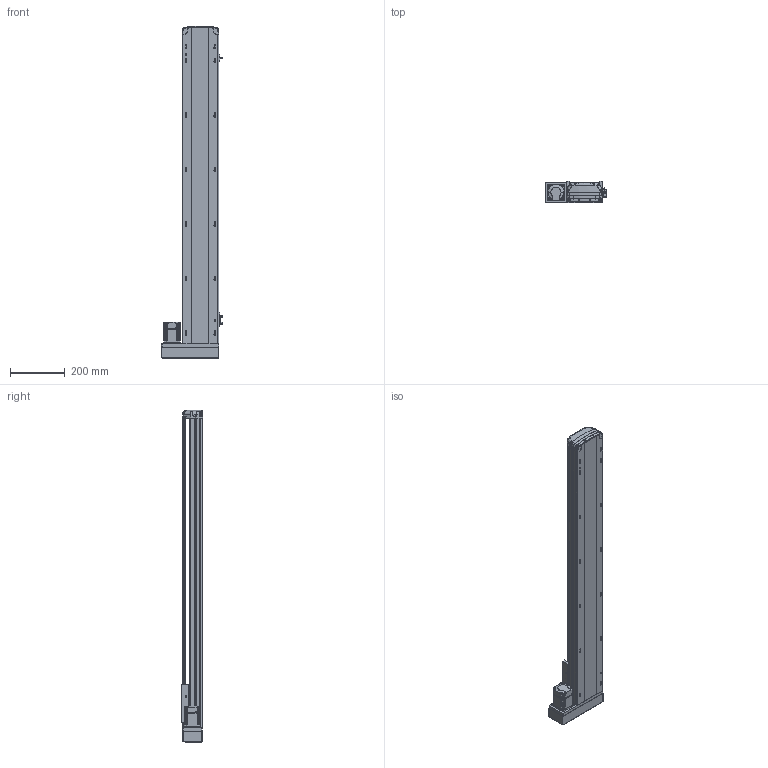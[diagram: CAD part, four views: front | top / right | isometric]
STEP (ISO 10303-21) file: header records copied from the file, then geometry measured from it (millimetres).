
FILE_DESCRIPTION (( 'STEP AP214' ), '1' );
FILE_NAME ('RTH14-XX-950-L-M20-C4.STEP', '2025-10-25T02:41:02', ( 'Microsoft' ), ( 'Microsoft' ), 'SwSTEP 2.0', 'SolidWorks 2018', '' );
FILE_SCHEMA (( 'AUTOMOTIVE_DESIGN' ));
Length unit declared in the file: millimetre
Products named in the file (10): RTH14-XX-950-L-M20-C4; N_RTH13-L-012感应片（外置）^RTH14-XX-XX-L-M20-C4; N_RTH14-M-007P奻裔^RTH14-XX-XX-L-M20-C4; N_RTH14-M-011P菁釱^RTH14-XX-XX-L-M20-C4; N_RTH13-L-018 裔赽^RTH14-XX-XX-L-M20-C4; N_RTH14-R-004-SFSR16賑釱^RTH14-XX-XX-L-M20-C4; N_RTH13-L-008-P20 萇儂啣酘蛌殏^RTH14-XX-XX-L-M20-C4; N_RTH14-GY-001P^RTH14-XX-XX-L-M20-C4; N_MSMD022P1AA_200W^RTH14-XX-XX-L-M20-C4; N_OMRON EE-SX672 传感器^RTH14-XX-XX-L-M20-C4
Assembly tree (11 placements, depth 2):
  RTH14-XX-950-L-M20-C4
    N_RTH14-M-011P菁釱^RTH14-XX-XX-L-M20-C4
    N_RTH14-M-007P奻裔^RTH14-XX-XX-L-M20-C4
    N_MSMD022P1AA_200W^RTH14-XX-XX-L-M20-C4
    N_RTH13-L-008-P20 萇儂啣酘蛌殏^RTH14-XX-XX-L-M20-C4
    N_RTH13-L-018 裔赽^RTH14-XX-XX-L-M20-C4
    N_RTH13-L-012感应片（外置）^RTH14-XX-XX-L-M20-C4
    N_OMRON EE-SX672 传感器^RTH14-XX-XX-L-M20-C4  x3
    N_RTH14-GY-001P^RTH14-XX-XX-L-M20-C4
    N_RTH14-R-004-SFSR16賑釱^RTH14-XX-XX-L-M20-C4
Bounding box: 224 x 78.03 x 1217.49 mm (x, y, z)
Volume: 5269099.4 mm3; surface area: 1217332.5 mm2
Topology: 11 solids, 11 shells, 1896 faces, 5303 edges, 3474 vertices
Faces by surface type: plane 993, cylinder 509, bspline 345, cone 45, torus 4
Entity records: 58081 total; most frequent: CARTESIAN_POINT 23265, ORIENTED_EDGE 7674, DIRECTION 6206, EDGE_CURVE 3837, VERTEX_POINT 2510, LINE 2182, VECTOR 2182, AXIS2_PLACEMENT_3D 2012
